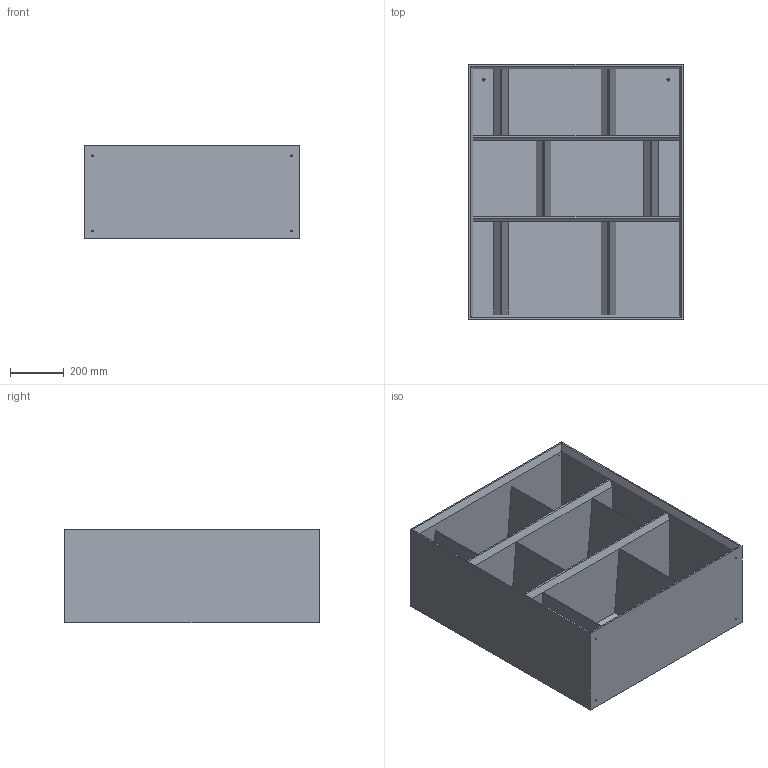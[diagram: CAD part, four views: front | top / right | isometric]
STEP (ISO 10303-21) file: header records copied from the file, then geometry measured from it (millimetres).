
FILE_DESCRIPTION (( 'STEP AP203' ), '1' );
FILE_NAME ('BL10S_Bendy A_80x35x95h.STEP', '2024-08-06T08:25:14', ( '' ), ( '' ), 'SwSTEP 2.0', 'SolidWorks 2022', '' );
FILE_SCHEMA (( 'CONFIG_CONTROL_DESIGN' ));
Length unit declared in the file: millimetre
Products named in the file (5): BED000001-00-TRIANGOLO DIVISORIO_H.356; BL10S_Bendy A_80x35x95h; BEx00000-01-BENDY Struttura tutte le dimensioni_bendy A 80x95cm<A macchina>; BED000001-00-TRIANGOLO DIVISORIO_H.292; BED000001-00-TRIANGOLO DIVISORIO_H.256
Assembly tree (7 placements, depth 2):
  BL10S_Bendy A_80x35x95h
    BEx00000-01-BENDY Struttura tutte le dimensioni_bendy A 80x95cm<A macchina>
    BED000001-00-TRIANGOLO DIVISORIO_H.356  x2
    BED000001-00-TRIANGOLO DIVISORIO_H.292  x2
    BED000001-00-TRIANGOLO DIVISORIO_H.256  x2
Bounding box: 800 x 950 x 350 mm (x, y, z)
Volume: 37207290.5 mm3; surface area: 7093705.1 mm2
Topology: 13 solids, 13 shells, 348 faces, 842 edges, 518 vertices
Faces by surface type: plane 220, cylinder 112, cone 16
Entity records: 9121 total; most frequent: DIRECTION 1510, CARTESIAN_POINT 1460, ORIENTED_EDGE 1420, EDGE_CURVE 710, VECTOR 518, LINE 518, AXIS2_PLACEMENT_3D 496, VERTEX_POINT 446
